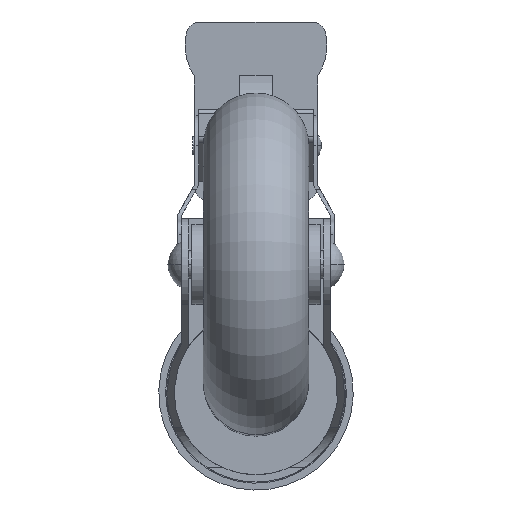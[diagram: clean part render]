
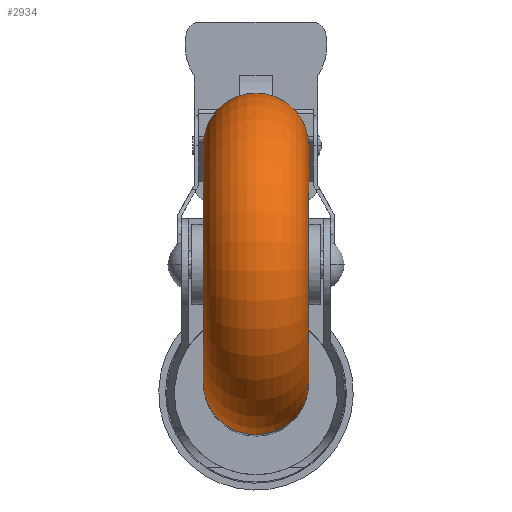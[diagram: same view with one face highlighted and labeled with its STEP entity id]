
A CAD part, front view. The second image highlights one B-rep face of the part: STEP entity #2934.
In plain terms, the highlighted toroidal (fillet/blend) face has major radius 26 mm and minor radius 11.5 mm.
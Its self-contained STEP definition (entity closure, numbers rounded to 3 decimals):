
#51 = TOROIDAL_SURFACE ( 'NONE', #2441, 26., 11.5 ) ;
#109 = VERTEX_POINT ( 'NONE', #5301 ) ;
#268 = EDGE_CURVE ( 'NONE', #5117, #109, #7142, .T. ) ;
#369 = AXIS2_PLACEMENT_3D ( 'NONE', #3070, #6915, #6268 ) ;
#1138 = EDGE_CURVE ( 'NONE', #5117, #3425, #3929, .T. ) ;
#1780 = DIRECTION ( 'NONE',  ( 0., 0., 1. ) ) ;
#2257 = EDGE_CURVE ( 'NONE', #109, #5384, #2829, .T. ) ;
#2318 = CIRCLE ( 'NONE', #369, 11.5 ) ;
#2441 = AXIS2_PLACEMENT_3D ( 'NONE', #3570, #4893, #7573 ) ;
#2517 = DIRECTION ( 'NONE',  ( 0., 0., 1. ) ) ;
#2649 = CARTESIAN_POINT ( 'NONE',  ( -11.5, 0., 26. ) ) ;
#2829 = CIRCLE ( 'NONE', #7734, 26. ) ;
#2934 = ADVANCED_FACE ( 'NONE', ( #4193 ), #51, .T. ) ;
#2987 = CARTESIAN_POINT ( 'NONE',  ( 11.5, 0., 0. ) ) ;
#3070 = CARTESIAN_POINT ( 'NONE',  ( 0., 0., 26. ) ) ;
#3091 = AXIS2_PLACEMENT_3D ( 'NONE', #2987, #7049, #1780 ) ;
#3144 = DIRECTION ( 'NONE',  ( 0., 1., 0. ) ) ;
#3425 = VERTEX_POINT ( 'NONE', #3601 ) ;
#3570 = CARTESIAN_POINT ( 'NONE',  ( 0., 0., 0. ) ) ;
#3601 = CARTESIAN_POINT ( 'NONE',  ( 11.5, 0., 26. ) ) ;
#3798 = CARTESIAN_POINT ( 'NONE',  ( 0., 0., -26. ) ) ;
#3929 = CIRCLE ( 'NONE', #3091, 26. ) ;
#4193 = FACE_OUTER_BOUND ( 'NONE', #7610, .T. ) ;
#4387 = EDGE_CURVE ( 'NONE', #3425, #5384, #2318, .T. ) ;
#4893 = DIRECTION ( 'NONE',  ( -1., 0., 0. ) ) ;
#5117 = VERTEX_POINT ( 'NONE', #6963 ) ;
#5301 = CARTESIAN_POINT ( 'NONE',  ( -11.5, 0., -26. ) ) ;
#5384 = VERTEX_POINT ( 'NONE', #2649 ) ;
#5825 = CARTESIAN_POINT ( 'NONE',  ( -11.5, 0., 0. ) ) ;
#6268 = DIRECTION ( 'NONE',  ( 0., 0., -1. ) ) ;
#6702 = ORIENTED_EDGE ( 'NONE', *, *, #268, .F. ) ;
#6914 = ORIENTED_EDGE ( 'NONE', *, *, #2257, .F. ) ;
#6915 = DIRECTION ( 'NONE',  ( 0., -1., 0. ) ) ;
#6963 = CARTESIAN_POINT ( 'NONE',  ( 11.5, 0., -26. ) ) ;
#6971 = ORIENTED_EDGE ( 'NONE', *, *, #1138, .T. ) ;
#7049 = DIRECTION ( 'NONE',  ( -1., 0., 0. ) ) ;
#7074 = DIRECTION ( 'NONE',  ( 0., 0., 1. ) ) ;
#7142 = CIRCLE ( 'NONE', #8535, 11.5 ) ;
#7524 = ORIENTED_EDGE ( 'NONE', *, *, #4387, .T. ) ;
#7573 = DIRECTION ( 'NONE',  ( 0., 0., 1. ) ) ;
#7610 = EDGE_LOOP ( 'NONE', ( #6702, #6971, #7524, #6914 ) ) ;
#7734 = AXIS2_PLACEMENT_3D ( 'NONE', #5825, #8503, #2517 ) ;
#8503 = DIRECTION ( 'NONE',  ( -1., 0., 0. ) ) ;
#8535 = AXIS2_PLACEMENT_3D ( 'NONE', #3798, #3144, #7074 ) ;
